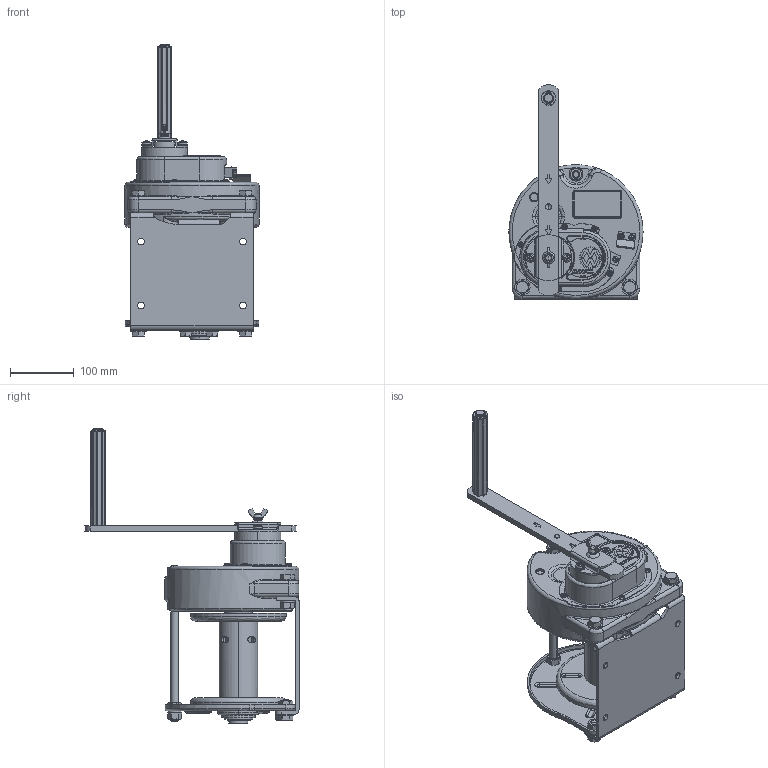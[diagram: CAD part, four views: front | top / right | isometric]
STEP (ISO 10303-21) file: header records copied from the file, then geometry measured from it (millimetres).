
FILE_DESCRIPTION( (''), '2;1');
FILE_NAME ('GM-3-GS.stp','2023-12-22T14:43:59',(''),(''),'spGate 19.8.2 (****-****-****-****)','','');
FILE_SCHEMA (('AUTOMOTIVE_DESIGN'));
Length unit declared in the file: millimetre
Products named in the file (3): Assembly; GM-3-GS-prt0; GM-3-GS-prt1
Assembly tree (2 placements, depth 2):
  Assembly
    GM-3-GS-prt0
    GM-3-GS-prt1
Bounding box: 209.96 x 335.43 x 463.5 mm (x, y, z)
Volume: 3705180.9 mm3; surface area: 586141.1 mm2
Topology: 2 solids, 2 shells, 2501 faces, 6491 edges, 4057 vertices
Faces by surface type: plane 1182, cylinder 785, bspline 462, sphere 72
Entity records: 137219 total; most frequent: CARTESIAN_POINT 26465, ORIENTED_EDGE 12844, DIRECTION 12181, COLOUR_RGB 8925, PRESENTATION_STYLE_ASSIGNMENT 8925, STYLED_ITEM 8925, EDGE_CURVE 6422, DRAUGHTING_PRE_DEFINED_CURVE_FONT 6422
